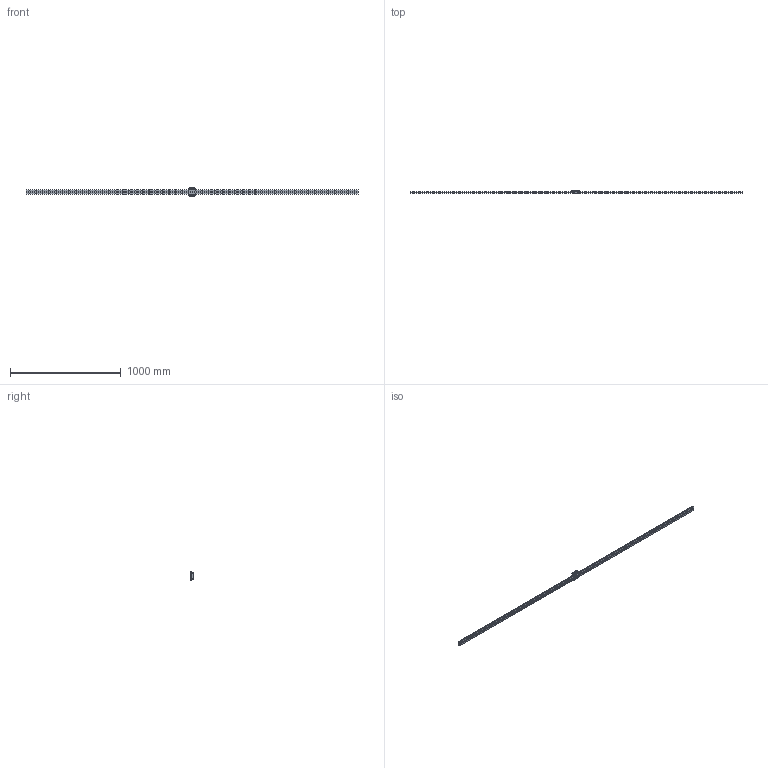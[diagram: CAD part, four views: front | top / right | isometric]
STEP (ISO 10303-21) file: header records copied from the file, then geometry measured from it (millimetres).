
FILE_DESCRIPTION(/* description */ ('STEP AP214'),/* implementation_level */ '2;1');
FILE_NAME(/* name */ 'HRW27CA1M-3000LM_G30_0_B-M6F_1466-6_0_0_0_1',/* time_stamp */ '2023-09-26T15:09:34+02:00',/* author */ ('License CC BY-ND 4.0'),/* organization */ ('CADENAS'),/* preprocessor_version */ 'ST-DEVELOPER v19.3',/* originating_system */ 'PARTsolutions',/* authorisation */ ' ');
FILE_SCHEMA (('AUTOMOTIVE_DESIGN {1 0 10303 214 3 1 1}'));
Length unit declared in the file: millimetre
Products named in the file (4): HRW27CA1M-3000LM_G30_0_B-M6F_1466-6_0_0_0_1; HRW-B-M6F_grease_nipple_joint; HRW27CAB-M6F1 Slide17-60; HRW27CA300030 Track
Assembly tree (3 placements, depth 2):
  HRW27CA1M-3000LM_G30_0_B-M6F_1466-6_0_0_0_1
    HRW-B-M6F_grease_nipple_joint
    HRW27CAB-M6F1 Slide17-60
    HRW27CA300030 Track
Bounding box: 3000 x 27 x 80 mm (x, y, z)
Volume: 1749485.5 mm3; surface area: 394854.2 mm2
Topology: 3 solids, 3 shells, 519 faces, 1176 edges, 773 vertices
Faces by surface type: plane 243, cylinder 240, cone 25, torus 8, sphere 3
Full cylindrical faces by diameter (mm): 3 x6, 4.5 x100, 4.917 x4, 5.3 x4, 6 x1, 7.5 x100, 8 x1, 9.5 x2
Entity records: 13971 total; most frequent: DIRECTION 2450, CARTESIAN_POINT 2360, ORIENTED_EDGE 1836, FACE_BOUND 1091, EDGE_LOOP 1089, AXIS2_PLACEMENT_3D 1047, EDGE_CURVE 918, VERTEX_POINT 765
